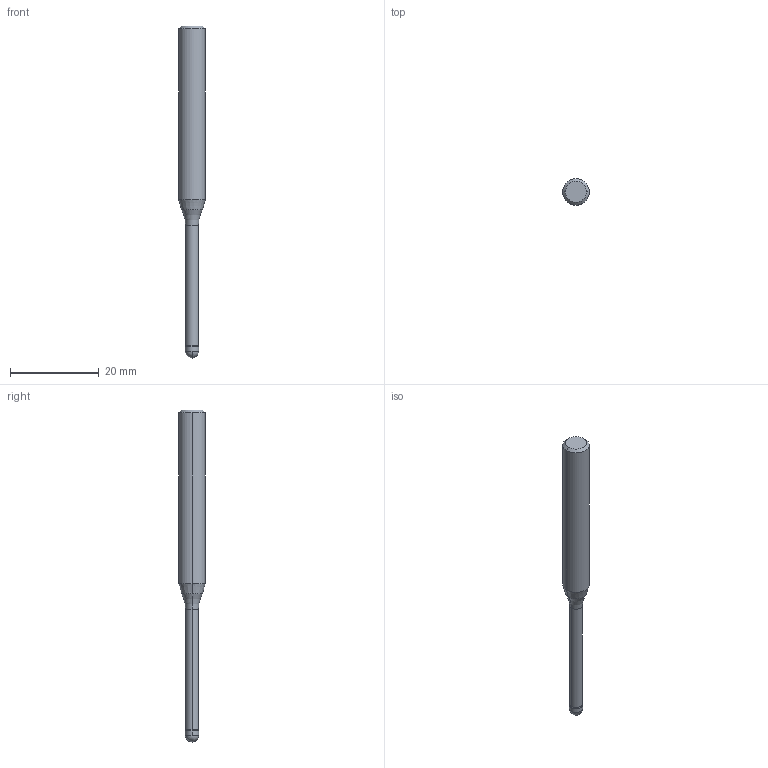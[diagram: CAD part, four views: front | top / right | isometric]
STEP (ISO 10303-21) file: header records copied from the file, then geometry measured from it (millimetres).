
FILE_DESCRIPTION (( 'STEP AP214' ), '1' );
FILE_NAME ('559.300.15_3D-model.step', '2022-02-18T15:14:30', ( '' ), ( '' ), 'SwSTEP 2.0', 'SolidWorks 2020', '' );
FILE_SCHEMA (( 'AUTOMOTIVE_DESIGN' ));
Length unit declared in the file: millimetre
Products named in the file (3): 559.300.15_3D-model; NOCUT-3D^Baugr142; CUT-3D^Baugr142
Assembly tree (2 placements, depth 2):
  559.300.15_3D-model
    CUT-3D^Baugr142
    NOCUT-3D^Baugr142
Bounding box: 6 x 6 x 75 mm (x, y, z)
Volume: 1388.4 mm3; surface area: 1129.4 mm2
Topology: 2 solids, 2 shells, 19 faces, 38 edges, 21 vertices
Faces by surface type: cylinder 6, cone 6, plane 3, sphere 2, torus 2
Entity records: 604 total; most frequent: DIRECTION 114, CARTESIAN_POINT 84, ORIENTED_EDGE 72, AXIS2_PLACEMENT_3D 51, EDGE_CURVE 36, CIRCLE 24, VERTEX_POINT 21, EDGE_LOOP 19
